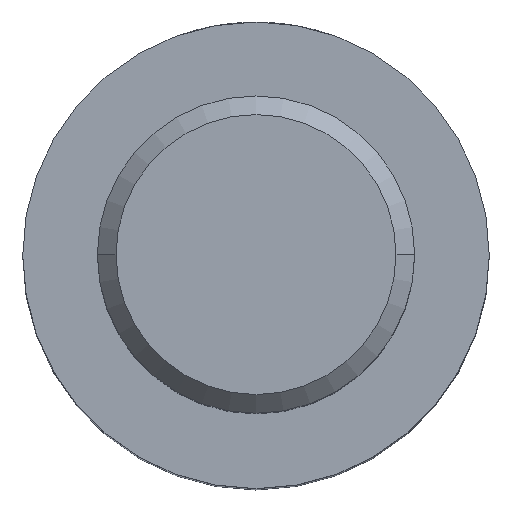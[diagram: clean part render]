
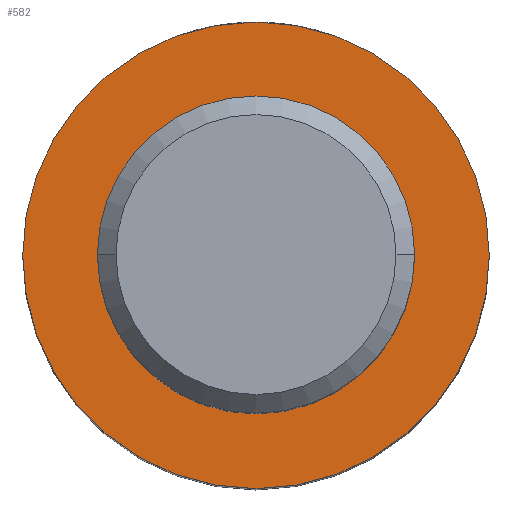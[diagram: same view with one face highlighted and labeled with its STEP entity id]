
A CAD part, top view. The second image highlights one B-rep face of the part: STEP entity #582.
In plain terms, the highlighted planar face has unit normal (0, 0, 1).
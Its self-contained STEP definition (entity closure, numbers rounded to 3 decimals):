
#3 = CARTESIAN_POINT ( 'NONE',  ( 0., 0., 21. ) ) ;
#4 = DIRECTION ( 'NONE',  ( 0., 0., 1. ) ) ;
#5 = DIRECTION ( 'NONE',  ( 1., 0., 0. ) ) ;
#60 = DIRECTION ( 'NONE',  ( 1., 0., 0. ) ) ;
#109 = FACE_OUTER_BOUND ( 'NONE', #621, .T. ) ;
#113 = FACE_BOUND ( 'NONE', #186, .T. ) ;
#158 = EDGE_CURVE ( 'NONE', #976, #977, #943, .T. ) ;
#165 = EDGE_CURVE ( 'NONE', #985, #982, #949, .T. ) ;
#171 = ORIENTED_EDGE ( 'NONE', *, *, #158, .F. ) ;
#176 = ORIENTED_EDGE ( 'NONE', *, *, #165, .T. ) ;
#186 = EDGE_LOOP ( 'NONE', ( #171, #635 ) ) ;
#213 = CARTESIAN_POINT ( 'NONE',  ( 0., 0., 21. ) ) ;
#214 = DIRECTION ( 'NONE',  ( 0., 0., 1. ) ) ;
#215 = DIRECTION ( 'NONE',  ( 1., 0., 0. ) ) ;
#276 = CARTESIAN_POINT ( 'NONE',  ( 0., 0., 21. ) ) ;
#279 = PLANE ( 'NONE',  #350 ) ;
#350 = AXIS2_PLACEMENT_3D ( 'NONE', #276, #1077, #60 ) ;
#388 = ORIENTED_EDGE ( 'NONE', *, *, #1020, .T. ) ;
#398 = CARTESIAN_POINT ( 'NONE',  ( -12.5, 0., 21. ) ) ;
#400 = CARTESIAN_POINT ( 'NONE',  ( 12.5, 0., 21. ) ) ;
#523 = AXIS2_PLACEMENT_3D ( 'NONE', #702, #703, #695 ) ;
#582 = ADVANCED_FACE ( 'NONE', ( #109, #113 ), #279, .T. ) ;
#621 = EDGE_LOOP ( 'NONE', ( #388, #176 ) ) ;
#635 = ORIENTED_EDGE ( 'NONE', *, *, #1169, .F. ) ;
#695 = DIRECTION ( 'NONE',  ( 1., 0., 0. ) ) ;
#702 = CARTESIAN_POINT ( 'NONE',  ( 0., 0., 21. ) ) ;
#703 = DIRECTION ( 'NONE',  ( 0., 0., 1. ) ) ;
#712 = CIRCLE ( 'NONE', #779, 12.5 ) ;
#737 = CIRCLE ( 'NONE', #790, 8.5 ) ;
#763 = CARTESIAN_POINT ( 'NONE',  ( 8.5, 0., 21. ) ) ;
#764 = CARTESIAN_POINT ( 'NONE',  ( -8.5, 0., 21. ) ) ;
#779 = AXIS2_PLACEMENT_3D ( 'NONE', #213, #214, #215 ) ;
#790 = AXIS2_PLACEMENT_3D ( 'NONE', #3, #4, #5 ) ;
#943 = CIRCLE ( 'NONE', #1042, 8.5 ) ;
#949 = CIRCLE ( 'NONE', #523, 12.5 ) ;
#976 = VERTEX_POINT ( 'NONE', #764 ) ;
#977 = VERTEX_POINT ( 'NONE', #763 ) ;
#982 = VERTEX_POINT ( 'NONE', #398 ) ;
#985 = VERTEX_POINT ( 'NONE', #400 ) ;
#1020 = EDGE_CURVE ( 'NONE', #982, #985, #712, .T. ) ;
#1042 = AXIS2_PLACEMENT_3D ( 'NONE', #1192, #1189, #1188 ) ;
#1077 = DIRECTION ( 'NONE',  ( 0., 0., 1. ) ) ;
#1169 = EDGE_CURVE ( 'NONE', #977, #976, #737, .T. ) ;
#1188 = DIRECTION ( 'NONE',  ( 1., 0., 0. ) ) ;
#1189 = DIRECTION ( 'NONE',  ( 0., 0., 1. ) ) ;
#1192 = CARTESIAN_POINT ( 'NONE',  ( 0., 0., 21. ) ) ;
